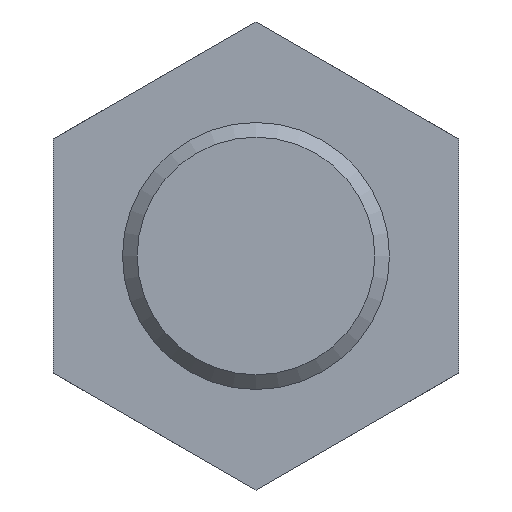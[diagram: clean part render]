
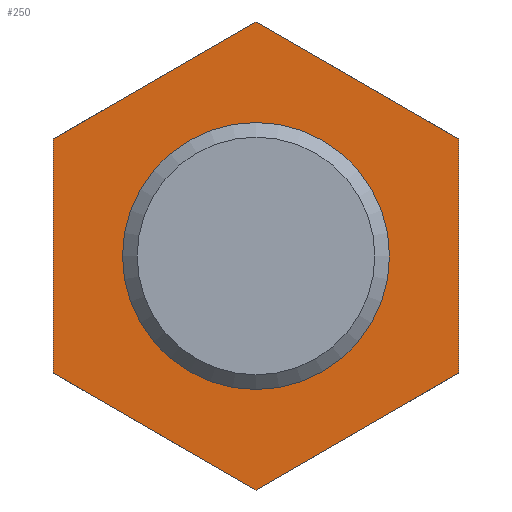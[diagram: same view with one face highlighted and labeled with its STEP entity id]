
A CAD part, front view. The second image highlights one B-rep face of the part: STEP entity #250.
In plain terms, the highlighted planar face has unit normal (0, -1, 0).
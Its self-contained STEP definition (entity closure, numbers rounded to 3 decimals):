
#14=LINE($,#421,#26);
#17=LINE($,#426,#29);
#19=LINE($,#430,#31);
#21=LINE($,#435,#33);
#23=LINE($,#438,#35);
#24=LINE($,#440,#36);
#26=VECTOR($,#322,49.075);
#29=VECTOR($,#327,49.075);
#31=VECTOR($,#331,49.075);
#33=VECTOR($,#335,49.075);
#35=VECTOR($,#339,49.075);
#36=VECTOR($,#342,49.075);
#56=PLANE($,#279);
#61=FACE_BOUND($,#96,.T.);
#62=FACE_BOUND($,#97,.T.);
#96=EDGE_LOOP($,(#215));
#97=EDGE_LOOP($,(#216,#217,#218,#219,#220,#221));
#101=CIRCLE($,#259,28.);
#110=VERTEX_POINT($,#354);
#123=VERTEX_POINT($,#418);
#124=VERTEX_POINT($,#420);
#125=VERTEX_POINT($,#424);
#126=VERTEX_POINT($,#428);
#127=VERTEX_POINT($,#432);
#128=VERTEX_POINT($,#434);
#131=EDGE_CURVE($,#110,#110,#101,.T.);
#151=EDGE_CURVE($,#124,#123,#14,.T.);
#154=EDGE_CURVE($,#123,#125,#17,.T.);
#156=EDGE_CURVE($,#125,#126,#19,.T.);
#158=EDGE_CURVE($,#128,#127,#21,.T.);
#160=EDGE_CURVE($,#127,#124,#23,.T.);
#161=EDGE_CURVE($,#126,#128,#24,.T.);
#215=ORIENTED_EDGE($,*,*,#131,.T.);
#216=ORIENTED_EDGE($,*,*,#161,.T.);
#217=ORIENTED_EDGE($,*,*,#158,.T.);
#218=ORIENTED_EDGE($,*,*,#160,.T.);
#219=ORIENTED_EDGE($,*,*,#151,.T.);
#220=ORIENTED_EDGE($,*,*,#154,.T.);
#221=ORIENTED_EDGE($,*,*,#156,.T.);
#250=ADVANCED_FACE($,(#61,#62),#56,.T.);
#259=AXIS2_PLACEMENT_3D($,#355,#291,#292);
#279=AXIS2_PLACEMENT_3D($,#441,#343,#344);
#291=DIRECTION('center_axis',(0.,1.,0.));
#292=DIRECTION('ref_axis',(-1.,0.,0.));
#322=DIRECTION($,(-0.866,0.,0.5));
#327=DIRECTION($,(-0.866,0.,-0.5));
#331=DIRECTION($,(0.,0.,-1.));
#335=DIRECTION($,(0.866,0.,0.5));
#339=DIRECTION($,(0.,0.,1.));
#342=DIRECTION($,(0.866,0.,-0.5));
#343=DIRECTION('center_axis',(0.,-1.,0.));
#344=DIRECTION('ref_axis',(0.,0.,-1.));
#354=CARTESIAN_POINT('',(28.,0.,0.));
#355=CARTESIAN_POINT('Origin',(0.,0.,0.));
#418=CARTESIAN_POINT('',(0.,0.,49.075));
#420=CARTESIAN_POINT('',(42.5,0.,24.537));
#421=CARTESIAN_POINT($,(42.5,0.,24.537));
#424=CARTESIAN_POINT('',(-42.5,0.,24.537));
#426=CARTESIAN_POINT($,(0.,0.,49.075));
#428=CARTESIAN_POINT('',(-42.5,0.,-24.537));
#430=CARTESIAN_POINT($,(-42.5,0.,24.537));
#432=CARTESIAN_POINT('',(42.5,0.,-24.537));
#434=CARTESIAN_POINT('',(0.,0.,-49.075));
#435=CARTESIAN_POINT($,(0.,0.,-49.075));
#438=CARTESIAN_POINT($,(42.5,0.,-24.537));
#440=CARTESIAN_POINT($,(-42.5,0.,-24.537));
#441=CARTESIAN_POINT('Origin',(0.,0.,0.));
